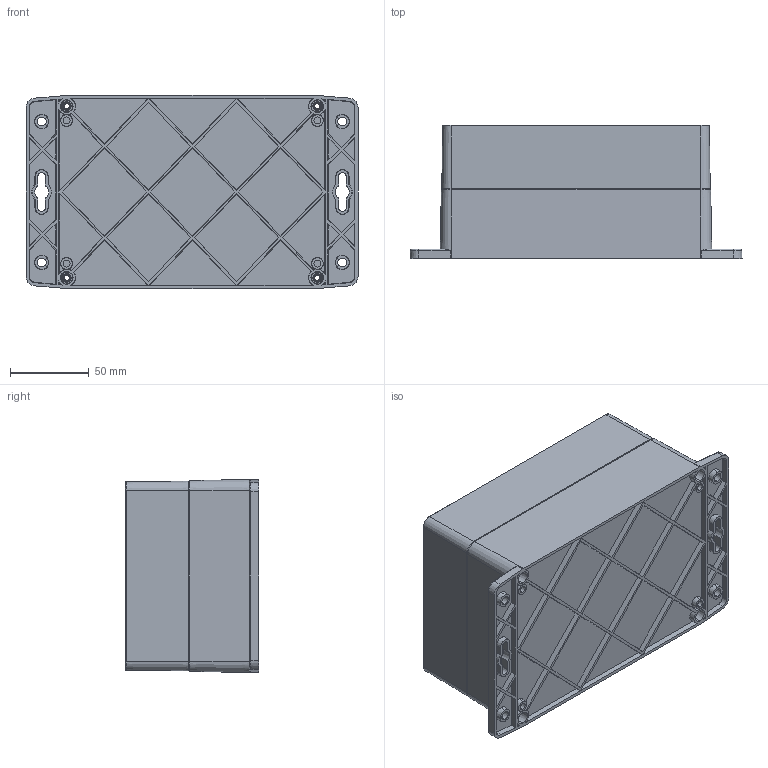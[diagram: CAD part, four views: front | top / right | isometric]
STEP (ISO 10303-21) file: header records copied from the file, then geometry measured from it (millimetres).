
FILE_DESCRIPTION (( 'STEP AP203' ), '1' );
FILE_NAME ('PF238.STEP', '2020-03-03T06:01:11', ( '' ), ( '' ), 'SwSTEP 2.0', 'SolidWorks 2020', '' );
FILE_SCHEMA (( 'CONFIG_CONTROL_DESIGN' ));
Length unit declared in the file: millimetre
Products named in the file (4): PF238
Assembly tree (3 placements, depth 2):
  PF238
    PF238
    PF238
    PF238
Bounding box: 211 x 84.7 x 122.86 mm (x, y, z)
Volume: 358531.5 mm3; surface area: 256403.7 mm2
Topology: 7 solids, 7 shells, 1160 faces, 3085 edges, 2005 vertices
Faces by surface type: plane 375, cylinder 288, cone 257, bspline 232, torus 8
Entity records: 39007 total; most frequent: CARTESIAN_POINT 10893, ORIENTED_EDGE 6098, DIRECTION 5353, EDGE_CURVE 3049, VERTEX_POINT 2005, AXIS2_PLACEMENT_3D 1939, VECTOR 1475, LINE 1475
